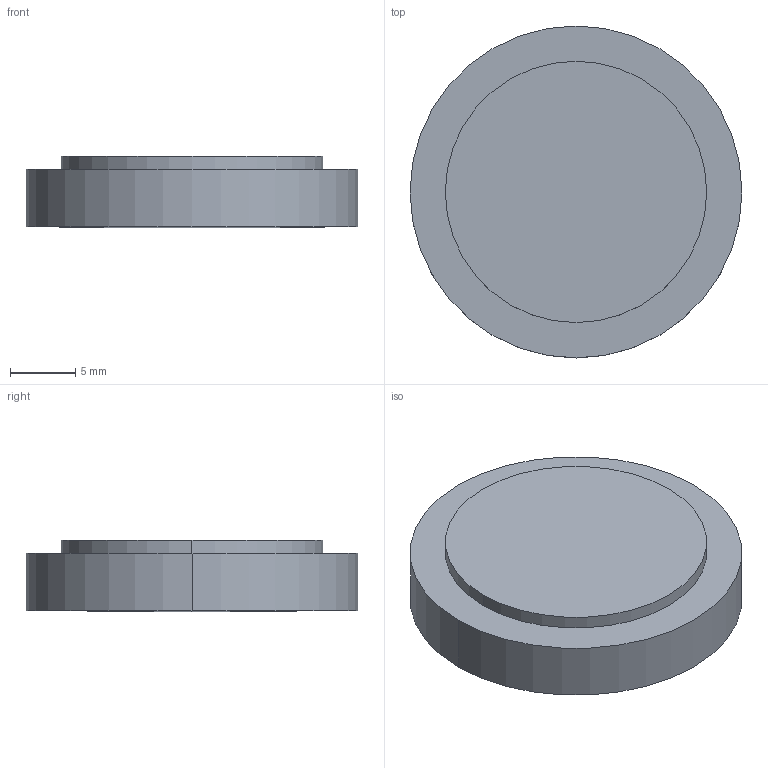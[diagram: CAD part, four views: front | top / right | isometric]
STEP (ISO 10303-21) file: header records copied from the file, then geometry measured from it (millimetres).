
FILE_DESCRIPTION(('STEP AP214'),'1');
FILE_NAME('LLF-25-2M.STEP','2020-03-09T17:41:21',(' '),(' '),'Spatial InterOp 3D',' ',' ');
FILE_SCHEMA(('AUTOMOTIVE_DESIGN { 1 0 10303 214 1 1 1 1 }'));
Length unit declared in the file: millimetre
Products named in the file (1): 1
Bounding box: 25.4 x 25.4 x 5.5 mm (x, y, z)
Volume: 2567.5 mm3; surface area: 2055.2 mm2
Topology: 2 solids, 2 shells, 9 faces, 16 edges, 9 vertices
Faces by surface type: cylinder 4, plane 3, sphere 2
Entity records: 229 total; most frequent: DIRECTION 46, CARTESIAN_POINT 34, ORIENTED_EDGE 28, AXIS2_PLACEMENT_3D 21, EDGE_CURVE 14, CIRCLE 10, ADVANCED_FACE 9, FACE_OUTER_BOUND 9
